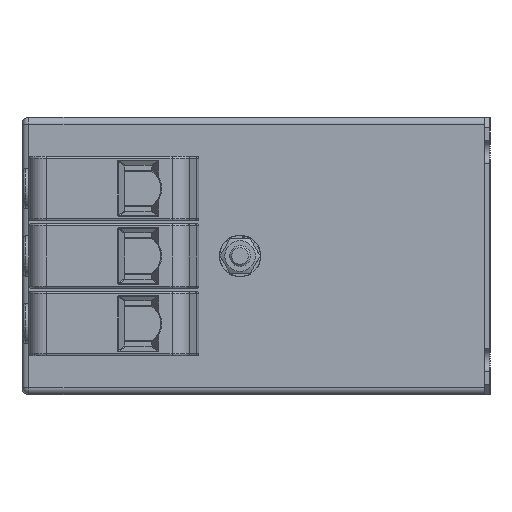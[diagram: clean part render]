
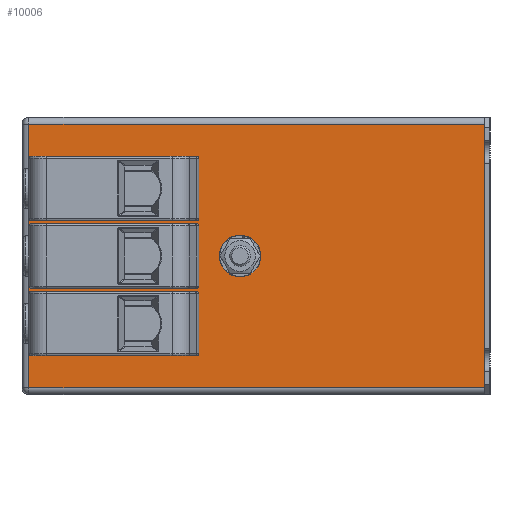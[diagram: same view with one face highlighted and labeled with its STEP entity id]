
A CAD part, left-side view. The second image highlights one B-rep face of the part: STEP entity #10006.
In plain terms, the highlighted planar face has unit normal (-1, 0, 0).
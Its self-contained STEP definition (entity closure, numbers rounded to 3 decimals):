
#460=LINE('',#15174,#1180);
#461=LINE('',#15176,#1181);
#462=LINE('',#15178,#1182);
#463=LINE('',#15179,#1183);
#464=LINE('',#15182,#1184);
#465=LINE('',#15184,#1185);
#466=LINE('',#15186,#1186);
#467=LINE('',#15187,#1187);
#468=LINE('',#15190,#1188);
#469=LINE('',#15192,#1189);
#470=LINE('',#15194,#1190);
#471=LINE('',#15195,#1191);
#472=LINE('',#15198,#1192);
#473=LINE('',#15200,#1193);
#474=LINE('',#15202,#1194);
#475=LINE('',#15203,#1195);
#1180=VECTOR('',#12001,131.5);
#1181=VECTOR('',#12002,76.);
#1182=VECTOR('',#12003,131.5);
#1183=VECTOR('',#12004,76.);
#1184=VECTOR('',#12005,48.);
#1185=VECTOR('',#12006,17.5);
#1186=VECTOR('',#12007,48.);
#1187=VECTOR('',#12008,17.5);
#1188=VECTOR('',#12009,48.);
#1189=VECTOR('',#12010,17.5);
#1190=VECTOR('',#12011,48.);
#1191=VECTOR('',#12012,17.5);
#1192=VECTOR('',#12013,48.);
#1193=VECTOR('',#12014,17.5);
#1194=VECTOR('',#12015,48.);
#1195=VECTOR('',#12016,17.5);
#1905=PLANE('',#10679);
#2145=FACE_BOUND('',#2903,.T.);
#2146=FACE_BOUND('',#2904,.T.);
#2147=FACE_BOUND('',#2905,.T.);
#2148=FACE_BOUND('',#2906,.T.);
#2253=FACE_OUTER_BOUND('',#2902,.T.);
#2902=EDGE_LOOP('',(#6456,#6457,#6458,#6459));
#2903=EDGE_LOOP('',(#6460,#6461,#6462,#6463));
#2904=EDGE_LOOP('',(#6464,#6465,#6466,#6467));
#2905=EDGE_LOOP('',(#6468,#6469,#6470,#6471));
#2906=EDGE_LOOP('',(#6472));
#3568=CIRCLE('',#10678,5.525);
#4040=VERTEX_POINT('',#15169);
#4041=VERTEX_POINT('',#15172);
#4042=VERTEX_POINT('',#15173);
#4043=VERTEX_POINT('',#15175);
#4044=VERTEX_POINT('',#15177);
#4045=VERTEX_POINT('',#15180);
#4046=VERTEX_POINT('',#15181);
#4047=VERTEX_POINT('',#15183);
#4048=VERTEX_POINT('',#15185);
#4049=VERTEX_POINT('',#15188);
#4050=VERTEX_POINT('',#15189);
#4051=VERTEX_POINT('',#15191);
#4052=VERTEX_POINT('',#15193);
#4053=VERTEX_POINT('',#15196);
#4054=VERTEX_POINT('',#15197);
#4055=VERTEX_POINT('',#15199);
#4056=VERTEX_POINT('',#15201);
#4946=EDGE_CURVE('',#4040,#4040,#3568,.T.);
#4947=EDGE_CURVE('',#4041,#4042,#460,.T.);
#4948=EDGE_CURVE('',#4043,#4041,#461,.T.);
#4949=EDGE_CURVE('',#4044,#4043,#462,.T.);
#4950=EDGE_CURVE('',#4044,#4042,#463,.T.);
#4951=EDGE_CURVE('',#4045,#4046,#464,.T.);
#4952=EDGE_CURVE('',#4046,#4047,#465,.T.);
#4953=EDGE_CURVE('',#4047,#4048,#466,.T.);
#4954=EDGE_CURVE('',#4045,#4048,#467,.T.);
#4955=EDGE_CURVE('',#4049,#4050,#468,.T.);
#4956=EDGE_CURVE('',#4050,#4051,#469,.T.);
#4957=EDGE_CURVE('',#4051,#4052,#470,.T.);
#4958=EDGE_CURVE('',#4049,#4052,#471,.T.);
#4959=EDGE_CURVE('',#4053,#4054,#472,.T.);
#4960=EDGE_CURVE('',#4054,#4055,#473,.T.);
#4961=EDGE_CURVE('',#4055,#4056,#474,.T.);
#4962=EDGE_CURVE('',#4053,#4056,#475,.T.);
#6456=ORIENTED_EDGE('',*,*,#4947,.F.);
#6457=ORIENTED_EDGE('',*,*,#4948,.F.);
#6458=ORIENTED_EDGE('',*,*,#4949,.F.);
#6459=ORIENTED_EDGE('',*,*,#4950,.T.);
#6460=ORIENTED_EDGE('',*,*,#4951,.T.);
#6461=ORIENTED_EDGE('',*,*,#4952,.T.);
#6462=ORIENTED_EDGE('',*,*,#4953,.T.);
#6463=ORIENTED_EDGE('',*,*,#4954,.F.);
#6464=ORIENTED_EDGE('',*,*,#4955,.T.);
#6465=ORIENTED_EDGE('',*,*,#4956,.T.);
#6466=ORIENTED_EDGE('',*,*,#4957,.T.);
#6467=ORIENTED_EDGE('',*,*,#4958,.F.);
#6468=ORIENTED_EDGE('',*,*,#4959,.T.);
#6469=ORIENTED_EDGE('',*,*,#4960,.T.);
#6470=ORIENTED_EDGE('',*,*,#4961,.T.);
#6471=ORIENTED_EDGE('',*,*,#4962,.F.);
#6472=ORIENTED_EDGE('',*,*,#4946,.T.);
#10006=ADVANCED_FACE('',(#2253,#2145,#2146,#2147,#2148),#1905,.T.);
#10678=AXIS2_PLACEMENT_3D('',#15170,#11997,#11998);
#10679=AXIS2_PLACEMENT_3D('',#15171,#11999,#12000);
#11997=DIRECTION('center_axis',(1.,0.,0.));
#11998=DIRECTION('ref_axis',(0.,0.,1.));
#11999=DIRECTION('center_axis',(-1.,0.,0.));
#12000=DIRECTION('ref_axis',(0.,-1.,0.));
#12001=DIRECTION('',(0.,-1.,0.));
#12002=DIRECTION('',(0.,0.,1.));
#12003=DIRECTION('',(0.,1.,0.));
#12004=DIRECTION('',(0.,0.,1.));
#12005=DIRECTION('',(0.,1.,0.));
#12006=DIRECTION('',(0.,0.,1.));
#12007=DIRECTION('',(0.,-1.,0.));
#12008=DIRECTION('',(0.,0.,1.));
#12009=DIRECTION('',(0.,1.,0.));
#12010=DIRECTION('',(0.,0.,1.));
#12011=DIRECTION('',(0.,-1.,0.));
#12012=DIRECTION('',(0.,0.,1.));
#12013=DIRECTION('',(0.,1.,0.));
#12014=DIRECTION('',(0.,0.,1.));
#12015=DIRECTION('',(0.,-1.,0.));
#12016=DIRECTION('',(0.,0.,1.));
#15169=CARTESIAN_POINT('',(-120.,72.1,-5.525));
#15170=CARTESIAN_POINT('Origin',(-120.,72.1,0.));
#15171=CARTESIAN_POINT('Origin',(-120.,135.,0.));
#15172=CARTESIAN_POINT('',(-120.,133.,38.));
#15173=CARTESIAN_POINT('',(-120.,1.5,38.));
#15174=CARTESIAN_POINT('',(-120.,133.,38.));
#15175=CARTESIAN_POINT('',(-120.,133.,-38.));
#15176=CARTESIAN_POINT('',(-120.,133.,-38.));
#15177=CARTESIAN_POINT('',(-120.,1.5,-38.));
#15178=CARTESIAN_POINT('',(-120.,1.5,-38.));
#15179=CARTESIAN_POINT('',(-120.,1.5,-38.));
#15180=CARTESIAN_POINT('',(-120.,84.5,-8.75));
#15181=CARTESIAN_POINT('',(-120.,132.5,-8.75));
#15182=CARTESIAN_POINT('',(-120.,84.5,-8.75));
#15183=CARTESIAN_POINT('',(-120.,132.5,8.75));
#15184=CARTESIAN_POINT('',(-120.,132.5,-8.75));
#15185=CARTESIAN_POINT('',(-120.,84.5,8.75));
#15186=CARTESIAN_POINT('',(-120.,132.5,8.75));
#15187=CARTESIAN_POINT('',(-120.,84.5,-8.75));
#15188=CARTESIAN_POINT('',(-120.,84.5,10.75));
#15189=CARTESIAN_POINT('',(-120.,132.5,10.75));
#15190=CARTESIAN_POINT('',(-120.,84.5,10.75));
#15191=CARTESIAN_POINT('',(-120.,132.5,28.25));
#15192=CARTESIAN_POINT('',(-120.,132.5,10.75));
#15193=CARTESIAN_POINT('',(-120.,84.5,28.25));
#15194=CARTESIAN_POINT('',(-120.,132.5,28.25));
#15195=CARTESIAN_POINT('',(-120.,84.5,10.75));
#15196=CARTESIAN_POINT('',(-120.,84.5,-28.25));
#15197=CARTESIAN_POINT('',(-120.,132.5,-28.25));
#15198=CARTESIAN_POINT('',(-120.,84.5,-28.25));
#15199=CARTESIAN_POINT('',(-120.,132.5,-10.75));
#15200=CARTESIAN_POINT('',(-120.,132.5,-28.25));
#15201=CARTESIAN_POINT('',(-120.,84.5,-10.75));
#15202=CARTESIAN_POINT('',(-120.,132.5,-10.75));
#15203=CARTESIAN_POINT('',(-120.,84.5,-28.25));
